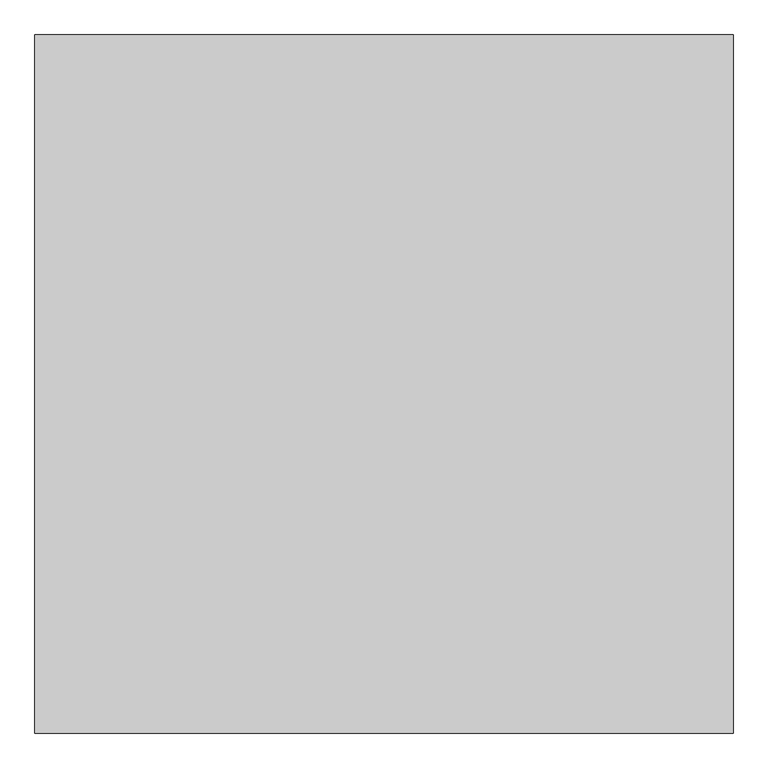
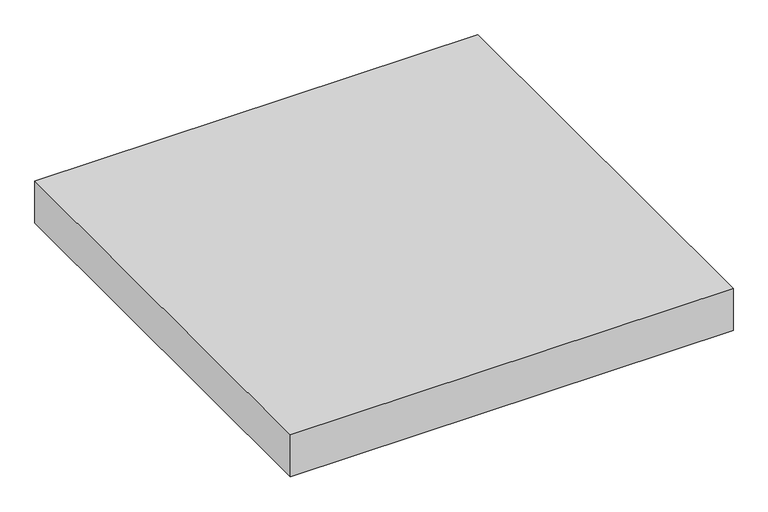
"""IFC4 building model written with IfcOpenShell, lengths in millimetres: proxy geometry, Modelos genéricos 14 : Modelos genéricos 1."""

from ifc_helpers import new_model, si_unit, origin, origin_with_axes, place, context, project, spatial, polyline, outline, extrude, source, transform, mapped, element, save


def generic_models_71eee53d(model_context):
    return source(origin(), model_context, "Body", "SweptSolid", [
        extrude(outline(polyline([(-3422.6026359, 6454.287186), (-3422.6026359, 4954.287186), (-4922.6026359, 4954.287186), (-4922.6026359, 6454.287186), (-3422.6026359, 6454.287186)])), origin_with_axes(), (0.0, 0.0, 1.0), 150.0),
    ])


if __name__ == "__main__":
    model = new_model("IFC4")
    model_context = context("Model", 3, world=origin())
    ifc_project = project(units=[si_unit("LENGTHUNIT", "METRE", prefix="MILLI")], contexts=[model_context])
    site = spatial("IfcSite", under=ifc_project)
    building = spatial("IfcBuilding", under=site)
    placement = place(None, origin())
    generic_models_shape = generic_models_71eee53d(model_context)
    element("IfcBuildingElementProxy", 1, Name="Modelos genéricos 14 : Modelos genéricos 1", ObjectType="Modelos genéricos 14 : Modelos genéricos 1", at=placement, inside=building, context=model_context, shape_type="MappedRepresentation", body=[
        mapped(generic_models_shape, transform((0.0, 0.0, 0.0), x_axis=(1.0, 0.0, 0.0), y_axis=(0.0, 1.0, 0.0), z_axis=(0.0, 0.0, 1.0))),
    ])
    save(model, "model.ifc")
